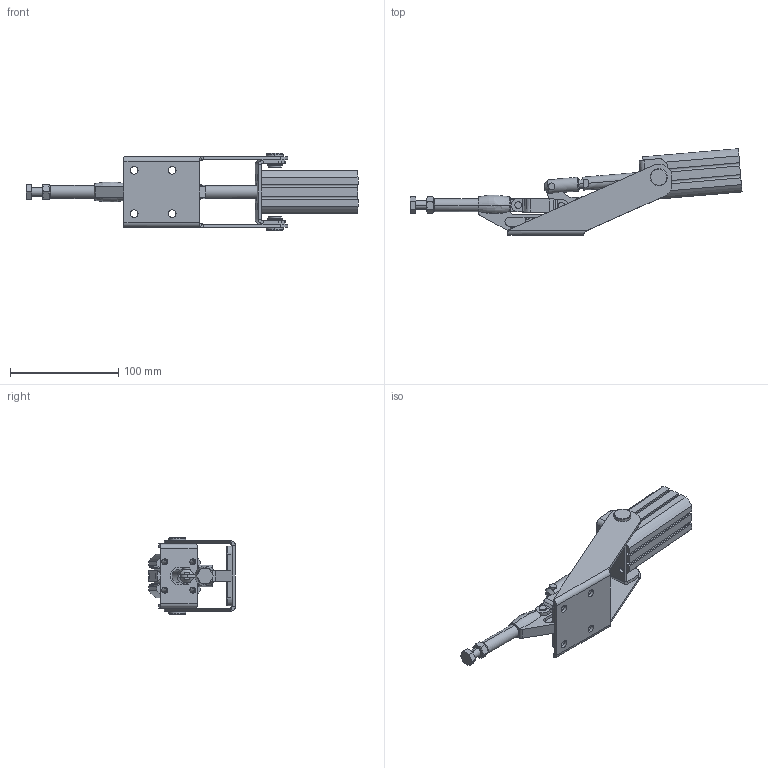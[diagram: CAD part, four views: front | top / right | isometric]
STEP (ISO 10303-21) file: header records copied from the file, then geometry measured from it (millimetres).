
FILE_DESCRIPTION (( 'STEP AP203' ), '1' );
FILE_NAME ('KF-057 P.STEP', '2014-08-28T18:39:58', ( 'Ricardo' ), ( '' ), 'SwSTEP 2.0', 'SolidWorks 2013', '' );
FILE_SCHEMA (( 'CONFIG_CONTROL_DESIGN' ));
Length unit declared in the file: millimetre
Products named in the file (18): 12.50020; 01.10091; PP-M8; 15.20009; HI_CD55B25-50(0)_BODY; 15.10056; HI_C55B25-50M(0)_ROD; 15.10057; CD55B25-50M_avan㌢do; 16.20068; 02.30009; KF-057 P; 501-012; 03.20037; 06.50001; 08.10003; 11.50002; 06.50006
Assembly tree (22 placements, depth 3):
  KF-057 P
    02.30009
    03.20037
    08.10003  x2
    06.50006  x3
    01.10091
    15.20009
    15.10056
    15.10057
    16.20068  x2
    501-012  x2
    06.50001
    PP-M8
      11.50002
      12.50020
    CD55B25-50M_avan㌢do
      HI_CD55B25-50(0)_BODY
      HI_C55B25-50M(0)_ROD
Bounding box: 306.05 x 79.82 x 71 mm (x, y, z)
Volume: 186368.3 mm3; surface area: 102328.3 mm2
Topology: 20 solids, 20 shells, 831 faces, 2055 edges, 1300 vertices
Faces by surface type: plane 338, cylinder 312, bspline 96, cone 68, torus 17
Entity records: 27526 total; most frequent: CARTESIAN_POINT 8122, ORIENTED_EDGE 3638, DIRECTION 3511, EDGE_CURVE 1819, AXIS2_PLACEMENT_3D 1270, VERTEX_POINT 1166, VECTOR 971, LINE 971
